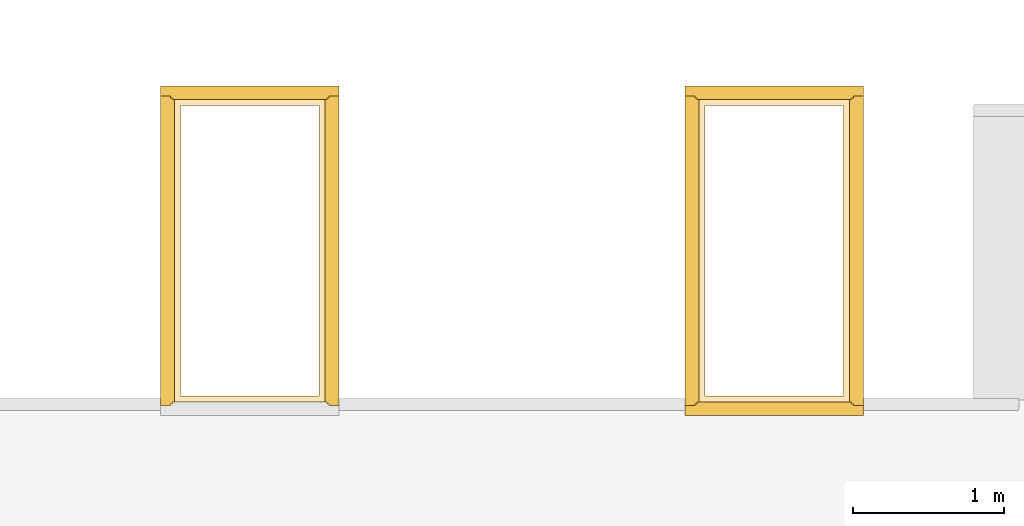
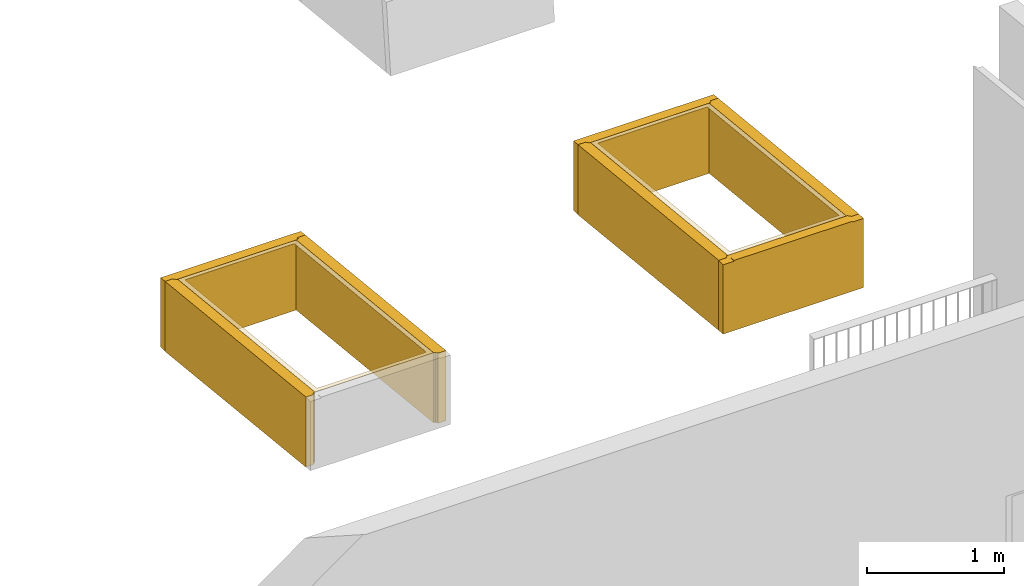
# One storey, part 16 of 23: 9 coverings, 2 openings.
"""IFC2X3 building model written with IfcOpenShell, lengths in millimetres."""

import ifcopenshell
import ifcopenshell.guid

model = None  # the IFC model being written
_history = None  # IfcOwnerHistory: only IFC2X3 demands one
_inside = {}  # id of a spatial element -> (the spatial element, [elements in it])
_under = {}  # id of a project, library or spatial element -> (it, [spatial elements below it])
_declared = {}  # id of a project -> (the project, [libraries it declares])
_typed = {}  # id of a type object -> (the type object, [elements of that type])
_made_of = {}  # id of a material, layer set ... -> (it, [elements and type objects made of it])


def new_model(schema):
    """Start an empty IFC model of exactly this schema.

    Asked for "IFC4X3", IfcOpenShell would pick the latest addendum, in which some entities
    have other attributes; the version numbers below select the first issue.
    IFC2X3 requires an IfcOwnerHistory on every rooted entity: one is made here for all.
    """
    global model, _history
    if schema == "IFC4X3":
        model = ifcopenshell.file(schema_version=(4, 3, 0, 0))
    else:
        model = ifcopenshell.file(schema=schema)
    _inside.clear()
    _under.clear()
    _declared.clear()
    _typed.clear()
    _made_of.clear()
    _history = None
    if model.schema == "IFC2X3":
        org = make("IfcOrganization", Name="unknown")
        user = make(
            "IfcPersonAndOrganization",
            ThePerson=make("IfcPerson", FamilyName="unknown"),
            TheOrganization=org,
        )
        app = make(
            "IfcApplication",
            ApplicationDeveloper=org,
            Version="unknown",
            ApplicationFullName="unknown",
            ApplicationIdentifier="unknown",
        )
        _history = make(
            "IfcOwnerHistory",
            OwningUser=user,
            OwningApplication=app,
            ChangeAction="ADDED",
            CreationDate=0,
        )
    return model


def make(cls, **values):
    """One entity of the class cls with the attributes given. An attribute that is None is left unset."""
    return model.create_entity(
        cls, **{name: value for name, value in values.items() if value is not None}
    )


def entity(cls, *values):
    """Any entity or typed value of the class cls, its attributes in the order of the schema. None: left unset."""
    e = model.create_entity(cls)
    for i, value in enumerate(values):
        if value is not None:
            e[i] = value
    return e


def rooted(cls, **values):
    """An entity with a GlobalId (a new one), such as an element, a storey or a relation."""
    return make(cls, GlobalId=ifcopenshell.guid.new(), OwnerHistory=_history, **values)


def si_unit(unit_type, name, prefix=None):
    """IfcSIUnit, for example si_unit("LENGTHUNIT", "METRE", prefix="MILLI")."""
    return make("IfcSIUnit", UnitType=unit_type, Prefix=prefix, Name=name)


def converted_unit(unit_type, name, factor, base, dimensions=None, offset=None):
    """IfcConversionBasedUnit, such as the inch: factor (a typed value) times the base unit."""
    return make(
        "IfcConversionBasedUnit"
        if offset is None
        else "IfcConversionBasedUnitWithOffset",
        ConversionOffset=offset,
        Dimensions=None
        if dimensions is None
        else entity("IfcDimensionalExponents", *dimensions),
        UnitType=unit_type,
        Name=name,
        ConversionFactor=make(
            "IfcMeasureWithUnit", ValueComponent=factor, UnitComponent=base
        ),
    )


def derived_unit(unit_type, elements):
    """IfcDerivedUnit: a product of units, each with its exponent."""
    return make(
        "IfcDerivedUnit",
        Elements=[
            make("IfcDerivedUnitElement", Unit=unit, Exponent=power)
            for unit, power in elements
        ],
        UnitType=unit_type,
    )


def money_unit(currency):
    """IfcMonetaryUnit."""
    return make("IfcMonetaryUnit", Currency=currency)


def assignment(units):
    """IfcUnitAssignment: the units of a project."""
    return None if units is None else make("IfcUnitAssignment", Units=units)


def point(xyz):
    """IfcCartesianPoint."""
    return None if xyz is None else make("IfcCartesianPoint", Coordinates=xyz)


def direction(xyz):
    """IfcDirection."""
    return None if xyz is None else make("IfcDirection", DirectionRatios=xyz)


def frame(location, z_axis=None, x_axis=None):
    """IfcAxis2Placement3D, a coordinate frame: its origin and axes. An axis left out is left unset."""
    return make(
        "IfcAxis2Placement3D",
        Location=point(location),
        Axis=direction(z_axis),
        RefDirection=direction(x_axis),
    )


def origin_with_axes():
    """The frame at (0, 0, 0) with the z axis (0, 0, 1) and the x axis (1, 0, 0) written out."""
    return frame((0.0, 0.0, 0.0), z_axis=(0.0, 0.0, 1.0), x_axis=(1.0, 0.0, 0.0))


def place(relative_to, where):
    """IfcLocalPlacement: puts the frame where relative to a parent placement (None: the world)."""
    return make(
        "IfcLocalPlacement", PlacementRelTo=relative_to, RelativePlacement=where
    )


def context(
    kind, dimensions, precision=None, world=None, true_north=None, identifier=None
):
    """IfcGeometricRepresentationContext, for example the 3D "Model" context."""
    return make(
        "IfcGeometricRepresentationContext",
        ContextIdentifier=identifier,
        ContextType=kind,
        CoordinateSpaceDimension=dimensions,
        Precision=precision,
        WorldCoordinateSystem=world,
        TrueNorth=true_north,
    )


def subcontext(parent, identifier, kind, view, scale=None):
    """IfcGeometricRepresentationSubContext, for example "Body" below "Model"."""
    return make(
        "IfcGeometricRepresentationSubContext",
        ContextIdentifier=identifier,
        ContextType=kind,
        ParentContext=parent,
        TargetScale=scale,
        TargetView=view,
    )


def project(units=None, contexts=None):
    """IfcProject with its units and contexts."""
    return rooted(
        "IfcProject",
        Name="project",
        RepresentationContexts=contexts,
        UnitsInContext=assignment(units),
    )


def spatial(cls, under=None, at=None, **own):
    """A site, building, storey or space (cls), placed at a placement, below another one or the project."""
    s = rooted(cls, ObjectPlacement=at, **own)
    if under is not None:
        _under.setdefault(under.id(), (under, []))[1].append(s)
    return s


def faces_of(points, faces, orient=None, outer=None):
    """IfcFace entities. A face is a list of loops; a loop is a list of indices into points, from 0.

    orient and outer hold one flag for each loop. By default every Orientation is true, the
    first loop of a face is its IfcFaceOuterBound and the others are IfcFaceBound.
    """
    made = []
    for i, loops in enumerate(faces):
        bounds = []
        for j, loop in enumerate(loops):
            is_outer = j == 0 if outer is None else outer[i][j]
            bounds.append(
                make(
                    "IfcFaceOuterBound" if is_outer else "IfcFaceBound",
                    Bound=make("IfcPolyLoop", Polygon=[points[k] for k in loop]),
                    Orientation=True if orient is None else orient[i][j],
                )
            )
        made.append(make("IfcFace", Bounds=bounds))
    return made


def faceted_brep(points, faces, orient=None, outer=None, voids=None):
    """IfcFacetedBrep: a solid bounded by flat faces; with voids (closed shells), ...WithVoids."""
    shared = [point(p) for p in points]
    hull = make("IfcClosedShell", CfsFaces=faces_of(shared, faces, orient, outer))
    if voids is None:
        return make("IfcFacetedBrep", Outer=hull)
    return make(
        "IfcFacetedBrepWithVoids",
        Outer=hull,
        Voids=[
            make(cls, CfsFaces=faces_of(shared, fs, o, b)) for cls, fs, o, b in voids
        ],
    )


def shape(context_of_items, identifier, shape_type, items):
    """IfcShapeRepresentation: the items that make up one representation, for example the "Body"."""
    return make(
        "IfcShapeRepresentation",
        ContextOfItems=context_of_items,
        RepresentationIdentifier=identifier,
        RepresentationType=shape_type,
        Items=items,
    )


def material(Name=None, Category=None):
    """IfcMaterial."""
    return make("IfcMaterial", Name=Name, Category=Category)


def material_list(materials):
    """IfcMaterialList."""
    return make("IfcMaterialList", Materials=materials)


def made_of(thing, what):
    """Note that an element or type object is made of a material, layer set ...; save() writes the relation."""
    if what is not None:
        _made_of.setdefault(what.id(), (what, []))[1].append(thing)
    return thing


def type_object(cls, material=None, **own):
    """A type object (cls), such as IfcWallType, which elements share."""
    return made_of(rooted(cls, **own), material)


def element(
    cls,
    number,
    at=None,
    inside=None,
    cuts=None,
    type_object=None,
    material=None,
    context=None,
    identifier="Body",
    shape_type=None,
    held_by="IfcProductDefinitionShape",
    body=None,
    shapes=None,
    **own,
):
    """One element of the class cls, such as IfcWall. Its Tag is "e" and its number.

    at: its placement. inside: the storey or other place that contains it. cuts: it is an
    opening in that element (IfcRelVoidsElement). A single representation is given by context,
    identifier, shape_type and body (its items); several are given by shapes. held_by: the class
    of the entity that holds the representations. save() writes the other relations.
    """
    e = rooted(cls, Tag="e%d" % number, ObjectPlacement=at, **own)
    if body is not None:
        shapes = [shape(context, identifier, shape_type, body)]
    if shapes is not None:
        e.Representation = make(held_by, Representations=shapes)
    if inside is not None:
        _inside.setdefault(inside.id(), (inside, []))[1].append(e)
    if cuts is not None:
        rooted(
            "IfcRelVoidsElement", RelatingBuildingElement=cuts, RelatedOpeningElement=e
        )
    if type_object is not None:
        _typed.setdefault(type_object.id(), (type_object, []))[1].append(e)
    return made_of(e, material)


def aggregate(whole, parts):
    """IfcRelAggregates: a whole, such as a stair, and the parts it consists of."""
    return rooted("IfcRelAggregates", RelatingObject=whole, RelatedObjects=parts)


def save(model, path):
    """Write the relations noted so far, then the file.

    IfcRelAggregates (storeys below a building ...), IfcRelContainedInSpatialStructure (elements
    in a storey), IfcRelDefinesByType, IfcRelAssociatesMaterial and IfcRelDeclares: one each for
    every whole, place, type object, material and project.
    """
    for whole, parts in _under.values():
        aggregate(whole, parts)
    for where, things in _inside.values():
        rooted(
            "IfcRelContainedInSpatialStructure",
            RelatedElements=things,
            RelatingStructure=where,
        )
    for kind, things in _typed.values():
        rooted("IfcRelDefinesByType", RelatedObjects=things, RelatingType=kind)
    for what, things in _made_of.values():
        rooted("IfcRelAssociatesMaterial", RelatedObjects=things, RelatingMaterial=what)
    for by, libraries in _declared.values():
        rooted("IfcRelDeclares", RelatingContext=by, RelatedDefinitions=libraries)
    model.write(path)


model = new_model("IFC2X3")

# Units and contexts
model_context = context("Model", 3, precision=0.01, world=origin_with_axes(), true_north=direction((0.0, 1.0)))
body_context = subcontext(model_context, "Body", "Model", "MODEL_VIEW")
ifc_project = project(units=[si_unit("LENGTHUNIT", "METRE", prefix="MILLI"), si_unit("AREAUNIT", "SQUARE_METRE"), si_unit("VOLUMEUNIT", "CUBIC_METRE"), converted_unit("PLANEANGLEUNIT", "DEGREE", entity("IfcPlaneAngleMeasure", 0.0174532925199), si_unit("PLANEANGLEUNIT", "RADIAN"), dimensions=[0, 0, 0, 0, 0, 0, 0]), si_unit("SOLIDANGLEUNIT", "STERADIAN"), money_unit("EUR"), converted_unit("TIMEUNIT", "Year", entity("IfcTimeMeasure", 31556926.0), si_unit("TIMEUNIT", "SECOND"), dimensions=[0, 0, 1, 0, 0, 0, 0]), si_unit("MASSUNIT", "GRAM", prefix="KILO"), si_unit("THERMODYNAMICTEMPERATUREUNIT", "DEGREE_CELSIUS"), si_unit("LUMINOUSINTENSITYUNIT", "LUMEN"), si_unit("ENERGYUNIT", "JOULE", prefix="MEGA"), derived_unit("THERMALCONDUCTANCEUNIT", [(si_unit("POWERUNIT", "WATT"), 1), (si_unit("LENGTHUNIT", "METRE"), -1), (si_unit("THERMODYNAMICTEMPERATUREUNIT", "KELVIN"), -1)]), derived_unit("SPECIFICHEATCAPACITYUNIT", [(si_unit("ENERGYUNIT", "JOULE"), 1), (si_unit("MASSUNIT", "GRAM", prefix="KILO"), -1), (si_unit("THERMODYNAMICTEMPERATUREUNIT", "KELVIN"), -1)]), derived_unit("MASSDENSITYUNIT", [(si_unit("MASSUNIT", "GRAM", prefix="KILO"), 1), (si_unit("VOLUMEUNIT", "CUBIC_METRE"), -1)])], contexts=[model_context])

# Site, building, storey
site_placement = place(None, origin_with_axes())
site = spatial("IfcSite", under=ifc_project, at=site_placement, Name="L.Koidula tn 11b", CompositionType="ELEMENT")
building_placement = place(site_placement, origin_with_axes())
building = spatial("IfcBuilding", under=site, at=building_placement, Name="Rakvere Riigigümnaasium", CompositionType="ELEMENT")
storey_placement = place(building_placement, frame((0.0, 0.0, 7440.0), z_axis=(0.0, 0.0, 1.0), x_axis=(1.0, 0.0, 0.0)))
storey = spatial("IfcBuildingStorey", under=building, at=storey_placement, Name="3.korrus +7,44", CompositionType="ELEMENT", Elevation=7440.0)

# Coverings
ifc_material_1 = material(Name="SKR-02_Kipsplaat")
ifc_material_2 = material(Name="mineraalvill+karkass")
ifc_material_list_1 = material_list([ifc_material_1, ifc_material_1, ifc_material_2])
covering_type_1 = type_object("IfcCoveringType", Name="SA-2xkips 91", PredefinedType="NOTDEFINED")
covering_1_placement = place(storey_placement, frame((69498.0778352, 17093.5272912, 2893.27320769), z_axis=(0.0, 0.0, 1.0), x_axis=(-1.0, 0.0, 0.0)))
element("IfcCovering", 1, at=covering_1_placement, inside=storey, type_object=covering_type_1, material=ifc_material_list_1, Name="Ava-pinnakate", PredefinedType="NOTDEFINED", context=body_context, shape_type="Brep", body=[
    faceted_brep([(1012.49818739, -12.5, 633.06957111), (-12.5017888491, -12.5, 633.06957111), (-12.5017888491, -12.5, 9.56941715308), (0.0, -12.5, 9.56941706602), (0.0, -12.5, 8.19459877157), (999.999992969, -12.5, 8.19459877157), (999.999992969, -12.5, 9.56941706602), (1012.49818739, -12.5, 9.56941715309), (-12.5002567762, -1.79351733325, 634.194867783), (1012.49973401, -1.79351733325, 634.194867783), (-12.500000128, 0.0, 634.194867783), (-12.500000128, 0.0, 9.56941715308), (0.0, 0.0, 9.56941706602), (0.0, 0.0, 9.50840171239), (999.999992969, 0.0, 9.50840171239), (999.999992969, 0.0, 9.56941706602), (1012.4999931, 0.0, 9.56941715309), (1012.4999931, 0.0, 634.194867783)], [[[0, 1, 2, 3, 4, 5, 6, 7]], [[8, 1, 0, 9]], [[1, 8, 10, 11, 2]], [[12, 3, 2, 11]], [[12, 13, 4, 3]], [[14, 5, 4, 13]], [[6, 5, 14, 15]], [[6, 15, 16, 7]], [[9, 0, 7, 16, 17]], [[8, 9, 17, 10]], [[15, 14, 13, 12, 11, 10, 17, 16]]]),
    faceted_brep([(1024.9963818, -25.0, 631.75576817), (-25.0035776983, -25.0, 631.75576817), (-25.0035776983, -25.0, 9.56941715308), (0.0, -25.0, 9.56941706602), (0.0, -25.0, 6.88079583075), (999.999992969, -25.0, 6.88079583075), (999.999992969, -25.0, 9.56941706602), (1024.9963818, -25.0, 9.56941715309), (-25.0017889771, -12.5, 633.06957111), (1024.99818752, -12.5, 633.06957111), (-25.0017889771, -12.5, 9.56941715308), (0.0, -12.5, 9.56941706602), (0.0, -12.5, 8.19459877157), (999.999992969, -12.5, 8.19459877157), (999.999992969, -12.5, 9.56941706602), (1024.99818752, -12.5, 9.56941715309)], [[[0, 1, 2, 3, 4, 5, 6, 7]], [[8, 1, 0, 9]], [[1, 8, 10, 2]], [[11, 3, 2, 10]], [[11, 12, 4, 3]], [[13, 5, 4, 12]], [[6, 5, 13, 14]], [[6, 14, 15, 7]], [[9, 0, 7, 15]], [[8, 9, 15, 14, 13, 12, 11, 10]]]),
    faceted_brep([(1090.98684832, -91.0, 624.818888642), (-91.0130193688, -91.0, 624.818888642), (-91.0130193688, -91.0, 9.56941715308), (0.0, -91.0, 9.56941706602), (0.0, -91.0, 0.0), (999.999992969, -91.0, 0.0), (999.999992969, -91.0, 9.56941706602), (1090.98684832, -91.0, 9.56941715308), (-91.003574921, -25.0, 631.75576817), (1090.99638249, -25.0, 631.75576817), (-91.003574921, -25.0, 9.56941715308), (0.0, -25.0, 9.56941706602), (0.0, -25.0, 6.88079583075), (0.0, -90.4663992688, 0.0), (999.999992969, -90.4663992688, 0.0), (999.999992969, -25.0, 6.88079583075), (999.999992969, -25.0, 9.56941706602), (1090.99638249, -25.0, 9.56941715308)], [[[0, 1, 2, 3, 4, 5, 6, 7]], [[8, 1, 0, 9]], [[1, 8, 10, 2]], [[11, 3, 2, 10]], [[11, 12, 13, 4, 3]], [[4, 13, 14, 5]], [[5, 14, 15, 16, 6]], [[6, 16, 17, 7]], [[9, 0, 7, 17]], [[8, 9, 17, 16, 15, 12, 11, 10]], [[15, 14, 13, 12]]]),
])
covering_2_placement = place(storey_placement, frame((68498.0778422, 17093.5272912, 2902.84262484), z_axis=(0.0, 0.0, 1.0), x_axis=(-0.000144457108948, -0.999999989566, 0.0)))
element("IfcCovering", 2, at=covering_2_placement, inside=storey, type_object=covering_type_1, material=ifc_material_list_1, Name="Ava-pinnakate", PredefinedType="NOTDEFINED", context=body_context, shape_type="Brep", body=[
    faceted_brep([(0.00180411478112, -12.5, 624.81395673), (0.0, -1.29873001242e-07, 624.813956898), (0.0, -1.29873001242e-07, 624.62545063), (0.00180571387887, -12.5, 624.62545063), (2004.97699946, -1.50066625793e-08, 835.545528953), (2004.97880517, -12.5000000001, 835.545528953), (2004.97676336, -1.20967058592e-06, 210.670531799), (0.580523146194, -1.0255973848e-07, 0.0), (0.0, -1.02247099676e-07, 0.0), (0.00180571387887, -12.5, 0.0), (0.582328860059, -12.5, 0.0), (2004.97856908, -12.5000000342, 210.670531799)], [[[0, 1, 2, 3]], [[4, 1, 0, 5]], [[1, 4, 6, 7, 8, 2]], [[3, 2, 8, 9]], [[5, 0, 3, 9, 10, 11]], [[4, 5, 11, 6]], [[11, 10, 7, 6]], [[8, 7, 10, 9]]]),
    faceted_brep([(0.0, -25.0, 624.813577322), (0.0, -12.5, 624.81376711), (0.0, -12.5, 624.62545063), (0.0, -25.0, 624.62545063), (2017.47880604, -12.5, 836.859331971), (2017.48061175, -25.0, 836.859331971), (-12.4981944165, -12.5, 623.500153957), (-1.79171163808, -12.5, 624.62545063), (2017.47880604, -12.5, 211.984359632), (0.582328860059, -12.5, 0.0), (-12.4981944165, -12.5, 0.0), (-1.7899059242, -25.0, 624.62545063), (-12.4963887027, -25.0, 623.500153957), (-12.4963887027, -25.0, 0.0), (0.584134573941, -25.0, 0.0), (2017.48061175, -25.0, 211.984359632)], [[[0, 1, 2, 3]], [[4, 1, 0, 5]], [[6, 7, 2, 1, 4, 8, 9, 10]], [[7, 11, 3, 2]], [[11, 12, 13, 14, 15, 5, 0, 3]], [[4, 5, 15, 8]], [[7, 6, 12, 11]], [[15, 14, 9, 8]], [[10, 9, 14, 13]], [[12, 6, 10, 13]]]),
    faceted_brep([(0.0, -91.0, 624.81257524), (0.0, -25.0, 624.813577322), (0.0, -25.0, 624.62545063), (0.0, -91.0, 624.62545063), (2023.46087621, -25.0, 837.487883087), (2023.47041038, -91.0, 837.487883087), (-24.9963888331, -25.0, 622.186351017), (-1.7899059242, -25.0, 624.62545063), (2029.98061188, -25.0, 837.487883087), (2029.98061188, -25.0, 213.298162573), (0.584134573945, -25.0, 0.0), (-24.9963888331, -25.0, 0.0), (-1.78037175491, -91.0, 624.62545063), (-24.9868546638, -91.0, 622.186351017), (-24.9868546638, -91.0, 0.0), (0.593668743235, -91.0, 0.0), (2029.99014605, -91.0, 213.298162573), (2029.99014605, -91.0, 837.487883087)], [[[0, 1, 2, 3]], [[4, 1, 0, 5]], [[6, 7, 2, 1, 4, 8, 9, 10, 11]], [[7, 12, 3, 2]], [[12, 13, 14, 15, 16, 17, 5, 0, 3]], [[4, 5, 17, 8]], [[7, 6, 13, 12]], [[17, 16, 9, 8]], [[16, 15, 10, 9]], [[11, 10, 15, 14]], [[13, 6, 11, 14]]]),
])
ifc_material_list_2 = material_list([ifc_material_2, ifc_material_1, ifc_material_1])
covering_3_placement = place(storey_placement, frame((69498.0778352, 17093.5272912, 2902.84262484), z_axis=(0.0, 0.0, 1.0), x_axis=(-0.000143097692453, -0.999999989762, 0.0)))
element("IfcCovering", 3, at=covering_3_placement, inside=storey, type_object=covering_type_1, material=ifc_material_list_2, Name="Ava-pinnakate", PredefinedType="NOTDEFINED", context=body_context, shape_type="Brep", body=[
    faceted_brep([(0.0, 25.0, 624.814332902), (0.0, 90.9999998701, 624.815325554), (0.0, 90.9999998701, 624.62545063), (0.0, 25.0, 624.62545063), (2023.4442425, 91.0000021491, 837.487883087), (2023.45368695, 25.0, 837.487883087), (-25.0130221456, 90.9999965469, 622.186351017), (-1.80653924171, 90.9999996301, 624.62545063), (2029.96397817, 91.0000021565, 837.487883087), (2029.96397817, 91.0000021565, 213.298162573), (0.567501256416, 90.9999965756, 0.0), (-25.0130221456, 90.9999965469, 0.0), (-1.79709479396, 25.0, 624.62545063), (-25.0035776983, 25.0, 622.186351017), (-25.0035776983, 25.0, 0.0), (0.576945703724, 25.0, 0.0), (2029.97342262, 25.0, 213.298162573), (2029.97342262, 25.0, 837.487883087)], [[[0, 1, 2, 3]], [[4, 1, 0, 5]], [[6, 7, 2, 1, 4, 8, 9, 10, 11]], [[7, 12, 3, 2]], [[12, 13, 14, 15, 16, 17, 5, 0, 3]], [[4, 5, 17, 8]], [[7, 6, 13, 12]], [[17, 16, 9, 8]], [[16, 15, 10, 9]], [[11, 10, 15, 14]], [[13, 6, 11, 14]]]),
    faceted_brep([(0.0, 12.5, 624.8141449), (0.0, 25.0, 624.814332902), (0.0, 25.0, 624.62545063), (0.0, 12.5, 624.62545063), (2017.47342249, 25.0, 836.859331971), (2017.47521121, 12.5, 836.859331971), (-12.5035775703, 25.0, 623.500153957), (-1.79709479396, 25.0, 624.62545063), (2017.47342249, 25.0, 211.984359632), (0.57694570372, 25.0, 0.0), (-12.5035775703, 25.0, 0.0), (-1.79530607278, 12.5, 624.62545063), (-12.5017888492, 12.5, 623.500153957), (-12.5017888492, 12.5, 0.0), (0.578734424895, 12.5, 0.0), (2017.47521121, 12.5, 211.984359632)], [[[0, 1, 2, 3]], [[4, 1, 0, 5]], [[6, 7, 2, 1, 4, 8, 9, 10]], [[7, 11, 3, 2]], [[11, 12, 13, 14, 15, 5, 0, 3]], [[4, 5, 15, 8]], [[7, 6, 12, 11]], [[15, 14, 9, 8]], [[10, 9, 14, 13]], [[12, 6, 10, 13]]]),
    faceted_brep([(0.0, 0.0, 624.813956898), (0.0, 12.5, 624.8141449), (0.0, 12.5, 624.62545063), (0.0, 0.0, 624.62545063), (2004.97521583, 12.4999999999, 835.545529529), (2004.97699907, -1.13686837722e-10, 835.545528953), (2004.97674343, 12.4999999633, 210.670717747), (0.00455419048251, 12.5000009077, -0.0603487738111), (0.00634291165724, 9.07661501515e-07, -0.0603487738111), (2004.97676297, -3.38928884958e-08, 210.670531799)], [[[0, 1, 2, 3]], [[4, 1, 0, 5]], [[1, 4, 6, 7, 2]], [[2, 7, 8, 3]], [[5, 0, 3, 8, 9]], [[4, 5, 9, 6]], [[9, 8, 7, 6]]]),
])
covering_4_placement = place(storey_placement, frame((72978.1093442, 17093.5272912, 2893.27320769), z_axis=(0.0, 0.0, 1.0), x_axis=(-1.0, 0.0, 0.0)))
element("IfcCovering", 4, at=covering_4_placement, inside=storey, type_object=covering_type_1, material=ifc_material_list_1, Name="Ava-pinnakate", PredefinedType="NOTDEFINED", context=body_context, shape_type="Brep", body=[
    faceted_brep([(1012.49818739, -12.5, 633.06957111), (-12.5017888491, -12.5, 633.06957111), (-12.5017888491, -12.5, 9.56941715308), (0.0, -12.5, 9.56941706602), (0.0, -12.5, 8.19459877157), (999.999992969, -12.5, 8.19459877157), (999.999992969, -12.5, 9.56941706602), (1012.49818739, -12.5000000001, 9.56941715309), (-12.5002567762, -1.79351733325, 634.194867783), (1012.49973401, -1.79351733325, 634.194867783), (-12.500000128, 0.0, 634.194867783), (-12.500000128, 0.0, 9.56941715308), (0.0, 0.0, 9.56941706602), (0.0, 0.0, 9.50840171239), (999.999992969, 0.0, 9.50840171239), (999.999992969, 0.0, 9.56941706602), (1012.4999931, 0.0, 9.56941715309), (1012.4999931, 0.0, 634.194867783)], [[[0, 1, 2, 3, 4, 5, 6, 7]], [[8, 1, 0, 9]], [[1, 8, 10, 11, 2]], [[12, 3, 2, 11]], [[12, 13, 4, 3]], [[14, 5, 4, 13]], [[6, 5, 14, 15]], [[6, 15, 16, 7]], [[9, 0, 7, 16, 17]], [[8, 9, 17, 10]], [[15, 14, 13, 12, 11, 10, 17, 16]]]),
    faceted_brep([(1024.99638137, -25.0000000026, 631.755768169), (-25.0035771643, -25.0000000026, 631.755768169), (-25.0035777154, -25.0000006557, 9.56941715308), (0.0, -25.0000006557, 9.56941706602), (0.0, -25.0000006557, 6.88079576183), (999.999992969, -25.0000006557, 6.88079576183), (999.999992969, -25.0000006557, 9.56941706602), (1024.99638176, -25.0000006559, 9.56941715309), (-25.0017884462, -12.5, 633.06957111), (1024.99818709, -12.5, 633.06957111), (-25.0017889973, -12.5000000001, 9.56941715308), (0.0, -12.5, 9.56941706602), (0.0, -12.5, 8.19459877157), (999.999992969, -12.5, 8.19459877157), (999.999992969, -12.5, 9.56941706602), (1024.99818746, -12.5, 9.56941715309)], [[[0, 1, 2, 3, 4, 5, 6, 7]], [[8, 1, 0, 9]], [[1, 8, 10, 2]], [[11, 3, 2, 10]], [[11, 12, 4, 3]], [[13, 5, 4, 12]], [[6, 5, 13, 14]], [[6, 14, 15, 7]], [[9, 0, 7, 15]], [[8, 9, 15, 14, 13, 12, 11, 10]]]),
    faceted_brep([(1090.98684832, -91.0, 624.818888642), (-91.0130193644, -91.0, 624.818888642), (-91.0130193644, -91.0, 9.56941706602), (0.0, -91.0, 9.56941706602), (0.0, -91.0, 0.0), (999.999992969, -91.0, 0.0), (999.999992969, -91.0, 9.56941706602), (1090.98684832, -91.0, 9.56941706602), (-91.0035749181, -25.0000000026, 631.755768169), (1090.99638249, -25.0000000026, 631.755768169), (-91.0035749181, -25.0000006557, 9.56941706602), (0.0, -25.0000006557, 9.56941706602), (0.0, -25.0000006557, 6.88079576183), (0.0, -90.4663992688, 0.0), (999.999992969, -90.4663992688, 0.0), (999.999992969, -25.0000006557, 6.88079576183), (999.999992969, -25.0000006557, 9.56941706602), (1090.99638249, -25.0000006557, 9.56941706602)], [[[0, 1, 2, 3, 4, 5, 6, 7]], [[8, 1, 0, 9]], [[1, 8, 10, 2]], [[10, 11, 3, 2]], [[11, 12, 13, 4, 3]], [[4, 13, 14, 5]], [[5, 14, 15, 16, 6]], [[16, 17, 7, 6]], [[9, 0, 7, 17]], [[8, 9, 17, 16, 15, 12, 11, 10]], [[15, 14, 13, 12]]]),
])
covering_5_placement = place(storey_placement, frame((71977.819718, 15088.5503119, 3113.51090333), z_axis=(0.0, 0.0, 1.0), x_axis=(1.0, 0.0, 0.0)))
element("IfcCovering", 5, at=covering_5_placement, inside=storey, type_object=covering_type_1, material=ifc_material_list_1, Name="Ava-pinnakate", PredefinedType="NOTDEFINED", context=body_context, shape_type="Brep", body=[
    faceted_brep([(-12.5000001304, 7.33887617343e-07, 624.877250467), (1012.5027187, 7.33887617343e-07, 624.877250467), (1012.5027187, 0.000236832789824, 0.00225331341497), (-12.5000001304, 0.000236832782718, 0.00225331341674), (1012.50092998, -12.5, 626.191053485), (-12.5018058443, -12.5, 626.191053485), (1012.50092998, -12.5, 1.31608114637), (-12.5018058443, -12.5, 1.31608114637)], [[[0, 1, 2, 3]], [[4, 1, 0, 5]], [[1, 4, 6, 2]], [[7, 3, 2, 6]], [[5, 0, 3, 7]], [[4, 5, 7, 6]]]),
    faceted_brep([(-25.0018059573, -12.5, 626.191053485), (1025.00093008, -12.4999999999, 626.191053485), (1025.00093062, -12.5, 1.31608114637), (-25.0018045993, -12.5, 1.31608114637), (1025.00007432, -18.4802643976, 626.819604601), (-25.0026698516, -18.4802643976, 626.819604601), (0.0, -18.4802643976, 626.819604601), (0.0, -25.0000006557, 627.504856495), (1000.00271857, -25.0000006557, 627.504856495), (1000.00271857, -18.4802643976, 626.819604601), (1024.99914136, -25.0000006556, 626.819604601), (1024.9991419, -25.0000000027, 2.62988408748), (-25.0036103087, -25.0000000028, 2.62988408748), (-25.0036116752, -25.0000006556, 626.819604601), (0.0, -25.0000006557, 626.819604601), (1000.00271857, -25.0000006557, 626.819604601)], [[[0, 1, 2, 3]], [[4, 1, 0, 5, 6, 7, 8, 9]], [[1, 4, 10, 11, 2]], [[12, 3, 2, 11]], [[5, 0, 3, 12, 13]], [[6, 5, 13, 14]], [[7, 6, 14]], [[8, 7, 14, 13, 12, 11, 10, 15]], [[9, 8, 15]], [[4, 9, 15, 10]]]),
    faceted_brep([(0.0, -25.0000006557, 627.504856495), (1000.00271857, -25.0000006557, 627.504856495), (1000.00271857, -25.0000006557, 626.819604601), (1090.99914421, -25.0000006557, 626.819604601), (1090.99914421, -25.0000000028, 2.62988408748), (-91.0036123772, -25.0000000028, 2.62988408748), (-91.0036123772, -25.0000006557, 626.819604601), (0.0, -25.0000006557, 626.819604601), (1000.00271857, -86.6846790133, 633.988177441), (0.0, -86.6846790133, 633.988177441), (1000.00271857, -91.0, 633.988177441), (1000.00271857, -91.0, 626.819604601), (1090.98969976, -91.0, 626.819604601), (1090.98969976, -91.0, 9.56676361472), (-91.0131465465, -91.0, 9.56676361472), (-91.0131465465, -91.0, 626.819604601), (0.0, -91.0, 626.819604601), (0.0, -91.0, 633.988177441)], [[[0, 1, 2, 3, 4, 5, 6, 7]], [[8, 1, 0, 9]], [[1, 8, 10, 11, 2]], [[2, 11, 12, 3]], [[12, 13, 4, 3]], [[14, 5, 4, 13]], [[6, 5, 14, 15]], [[7, 6, 15, 16]], [[9, 0, 7, 16, 17]], [[8, 9, 17, 10]], [[15, 14, 13, 12, 11, 10, 17, 16]]]),
])
covering_6_placement = place(storey_placement, frame((71978.1093512, 17093.5272912, 2902.84262484), z_axis=(0.0, 0.0, 1.0), x_axis=(-0.000144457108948, -0.999999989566, 0.0)))
element("IfcCovering", 6, at=covering_6_placement, inside=storey, type_object=covering_type_1, material=ifc_material_list_1, Name="Ava-pinnakate", PredefinedType="NOTDEFINED", context=body_context, shape_type="Brep", body=[
    faceted_brep([(0.00180411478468, -12.5, 624.81395673), (0.0, -1.29873001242e-07, 624.813956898), (0.0, -1.29873001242e-07, 624.62545063), (0.00180571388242, -12.5, 624.62545063), (2004.97699946, -9.36495325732e-09, 835.545528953), (2004.97880517, -12.5000000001, 835.545528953), (2004.97676336, -1.20967058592e-06, 210.670531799), (0.580523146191, -5.13580289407e-08, 0.0), (0.0, -5.10311792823e-08, 0.0), (0.00180571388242, -12.5, 0.0), (0.582328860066, -12.5, 0.0), (2004.97856908, -12.5000000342, 210.670531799)], [[[0, 1, 2, 3]], [[4, 1, 0, 5]], [[1, 4, 6, 7, 8, 2]], [[3, 2, 8, 9]], [[5, 0, 3, 9, 10, 11]], [[4, 5, 11, 6]], [[11, 10, 7, 6]], [[8, 7, 10, 9]]]),
    faceted_brep([(0.0, -24.9999995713, 624.813577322), (0.0, -12.5, 624.81376711), (0.0, -12.5, 624.62545063), (0.0, -24.9999995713, 624.62545063), (2017.47880604, -12.5, 836.859331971), (2017.48061175, -24.9999999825, 836.859331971), (-12.4981944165, -12.4999999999, 623.500153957), (-1.79171163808, -12.5, 624.62545063), (2017.47880604, -12.5, 211.984359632), (0.582328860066, -12.5, 0.0), (-12.4981944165, -12.5, 0.0), (-1.78990592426, -24.9999995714, 624.62545063), (-12.4963887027, -24.999999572, 623.500153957), (-12.4963887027, -24.9999999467, 0.0), (0.584134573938, -24.9999999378, 0.0), (2017.48061175, -24.9999985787, 211.984359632)], [[[0, 1, 2, 3]], [[4, 1, 0, 5]], [[6, 7, 2, 1, 4, 8, 9, 10]], [[7, 11, 3, 2]], [[11, 12, 13, 14, 15, 5, 0, 3]], [[4, 5, 15, 8]], [[7, 6, 12, 11]], [[15, 14, 9, 8]], [[10, 9, 14, 13]], [[12, 6, 10, 13]]]),
    faceted_brep([(0.0, -91.0, 624.81257524), (0.0, -24.9999995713, 624.813577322), (0.0, -24.9999995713, 624.62545063), (0.0, -91.0, 624.62545063), (2023.46087621, -24.9999999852, 837.487883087), (2023.47041038, -90.9999999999, 837.487883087), (-24.9963888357, -24.9999995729, 622.186351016), (-1.78990592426, -24.9999995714, 624.62545063), (2029.98061254, -24.9999999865, 837.487883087), (2029.98061189, -24.9999985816, 213.298162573), (0.584134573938, -24.9999999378, 0.0), (-24.9963894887, -24.9999999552, 0.0), (-1.78037175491, -91.0, 624.62545063), (-24.9868546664, -91.0, 622.186351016), (-24.9868553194, -91.0000000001, 0.0), (0.593668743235, -91.0000000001, 0.0), (2029.99014606, -91.0, 213.298162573), (2029.99014671, -90.9999999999, 837.487883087)], [[[0, 1, 2, 3]], [[4, 1, 0, 5]], [[6, 7, 2, 1, 4, 8, 9, 10, 11]], [[7, 12, 3, 2]], [[12, 13, 14, 15, 16, 17, 5, 0, 3]], [[4, 5, 17, 8]], [[7, 6, 13, 12]], [[17, 16, 9, 8]], [[16, 15, 10, 9]], [[11, 10, 15, 14]], [[13, 6, 11, 14]]]),
])
covering_7_placement = place(storey_placement, frame((72978.1093442, 17093.5272912, 2902.84262484), z_axis=(0.0, 0.0, 1.0), x_axis=(-0.000143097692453, -0.999999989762, 0.0)))
element("IfcCovering", 7, at=covering_7_placement, inside=storey, type_object=covering_type_1, material=ifc_material_list_2, Name="Ava-pinnakate", PredefinedType="NOTDEFINED", context=body_context, shape_type="Brep", body=[
    faceted_brep([(0.0, 24.9999994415, 624.814332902), (0.0, 90.9999998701, 624.815325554), (0.0, 90.9999998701, 624.62545063), (0.0, 24.9999994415, 624.62545063), (2023.4442425, 91.0000021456, 837.487883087), (2023.45368695, 24.9999999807, 837.487883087), (-25.0130221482, 90.9999965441, 622.186351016), (-1.8065392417, 90.9999996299, 624.62545063), (2029.96397882, 91.000002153, 837.487883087), (2029.96397817, 91.0000021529, 213.298162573), (0.567501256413, 90.9999965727, 0.0), (-25.0130228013, 90.999996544, 0.0), (-1.79709479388, 24.9999994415, 624.62545063), (-25.0035777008, 24.9999994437, 622.186351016), (-25.003578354, 25.000000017, 0.0), (0.576945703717, 25.0000000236, 0.0), (2029.97342262, 25.0000005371, 213.298162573), (2029.97342327, 24.9999999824, 837.487883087)], [[[0, 1, 2, 3]], [[4, 1, 0, 5]], [[6, 7, 2, 1, 4, 8, 9, 10, 11]], [[7, 12, 3, 2]], [[12, 13, 14, 15, 16, 17, 5, 0, 3]], [[4, 5, 17, 8]], [[7, 6, 13, 12]], [[17, 16, 9, 8]], [[16, 15, 10, 9]], [[11, 10, 15, 14]], [[13, 6, 11, 14]]]),
    faceted_brep([(0.0, 12.5, 624.8141449), (0.0, 24.9999994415, 624.814332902), (0.0, 24.9999994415, 624.62545063), (0.0, 12.5, 624.62545063), (2017.47342249, 24.9999999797, 836.859331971), (2017.47521121, 12.5, 836.859331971), (-12.5035775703, 24.9999994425, 623.500153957), (-1.79709479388, 24.9999994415, 624.62545063), (2017.47342249, 25.0000005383, 211.984359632), (0.576945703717, 25.0000000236, 0.0), (-12.5035775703, 25.0000000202, 0.0), (-1.79530607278, 12.5, 624.62545063), (-12.5017888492, 12.5000000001, 623.500153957), (-12.5017888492, 12.5, 0.0), (0.578734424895, 12.5, 0.0), (2017.47521121, 12.5, 211.984359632)], [[[0, 1, 2, 3]], [[4, 1, 0, 5]], [[6, 7, 2, 1, 4, 8, 9, 10]], [[7, 11, 3, 2]], [[11, 12, 13, 14, 15, 5, 0, 3]], [[4, 5, 15, 8]], [[7, 6, 12, 11]], [[15, 14, 9, 8]], [[10, 9, 14, 13]], [[12, 6, 10, 13]]]),
    faceted_brep([(0.0, 0.0, 624.813956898), (0.0, 12.5, 624.8141449), (0.0, 12.5, 624.62545063), (0.0, 0.0, 624.62545063), (2004.97521583, 12.4999999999, 835.545529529), (2004.97699907, -1.13686837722e-10, 835.545528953), (2004.97674343, 12.4999999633, 210.670717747), (0.00455419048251, 12.5000009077, -0.0603487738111), (0.00634291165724, 9.07661501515e-07, -0.0603487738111), (2004.97676297, -3.38928884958e-08, 210.670531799)], [[[0, 1, 2, 3]], [[4, 1, 0, 5]], [[1, 4, 6, 7, 2]], [[2, 7, 8, 3]], [[5, 0, 3, 8, 9]], [[4, 5, 9, 6]], [[9, 8, 7, 6]]]),
])

# Covering, opening
ifc_material_3 = material(Name="Teras")
covering_type_2 = type_object("IfcCoveringType", Name="Teras 5", PredefinedType="NOTDEFINED")
covering_8_placement = place(storey_placement, frame((68594.0770183, 15726.1664643, 3666.4187087), z_axis=(0.0, 0.0, 1.0), x_axis=(1.0, 0.0, 0.0)))
covering_8 = element("IfcCovering", 8, at=covering_8_placement, inside=storey, type_object=covering_type_2, material=ifc_material_3, Name="Katuseakna terasraam", PredefinedType="NOTDEFINED", context=body_context, shape_type="Brep", body=[
    faceted_brep([(-95.9988153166, -637.616152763, 67.0161582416), (-95.9988153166, 1367.36082717, -143.715413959), (903.997966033, 1367.36082717, -143.715413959), (903.997966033, -637.616152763, 67.0161582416), (-56.0869676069, -598.056204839, 62.8582401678), (863.913032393, -598.056204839, 62.8582401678), (863.913032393, 1327.33818459, -139.508864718), (-56.0869676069, 1327.33818459, -139.508864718), (-95.998814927, 1367.3608269, -138.687872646), (-95.998814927, -637.616152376, 72.0436994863), (903.997965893, 1367.3608269, -138.687872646), (903.997965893, -637.616152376, 72.0436994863), (-56.0869676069, -597.533562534, 67.8308495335), (863.913032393, -597.533562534, 67.8308495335), (863.913032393, 1327.8608269, -134.536255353), (-56.0869676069, 1327.8608269, -134.536255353)], [[[0, 1, 2, 3], [4, 5, 6, 7]], [[8, 1, 0, 9]], [[10, 2, 1, 8]], [[11, 3, 2, 10]], [[9, 0, 3, 11]], [[12, 13, 5, 4]], [[13, 14, 6, 5]], [[14, 15, 7, 6]], [[15, 12, 4, 7]], [[11, 10, 8, 9], [12, 15, 14, 13]]]),
])
opening_1_placement = place(covering_8_placement, frame((403.913032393, 1327.8608269, 3531.88245335), z_axis=(0.0, 0.0, 1.0), x_axis=(1.0, 0.0, 0.0)))
element("IfcOpeningElement", 9, at=opening_1_placement, cuts=covering_8, Name="Ava ripplaes", context=body_context, shape_type="Brep", body=[
    faceted_brep([(460.0, -1925.28986097, -3463.05708192), (-460.0, -1925.28986097, -3463.05708192), (-460.0, -1926.02156021, -3470.01873519), (460.0, -1926.02156021, -3470.01873519), (460.0, 0.104528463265, -3665.42418681), (-460.0, 0.104528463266, -3665.42418681), (-460.0, -0.627170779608, -3672.38584008), (460.0, -0.627170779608, -3672.38584008)], [[[0, 1, 2, 3]], [[0, 4, 5, 1]], [[1, 5, 6, 2]], [[3, 2, 6, 7]], [[4, 0, 3, 7]], [[5, 4, 7, 6]]]),
])

covering_9_placement = place(storey_placement, frame((72074.1085273, 15726.1664643, 3666.4187087), z_axis=(0.0, 0.0, 1.0), x_axis=(1.0, 0.0, 0.0)))
covering_9 = element("IfcCovering", 10, at=covering_9_placement, inside=storey, type_object=covering_type_2, material=ifc_material_3, Name="Katuseakna terasraam", PredefinedType="NOTDEFINED", context=body_context, shape_type="Brep", body=[
    faceted_brep([(-95.9988153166, -637.616152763, 67.0161582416), (-95.9988153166, 1367.36082717, -143.715413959), (903.997966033, 1367.36082717, -143.715413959), (903.997966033, -637.616152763, 67.0161582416), (-56.0869676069, -598.056204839, 62.8582401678), (863.913032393, -598.056204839, 62.8582401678), (863.913032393, 1327.33818459, -139.508864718), (-56.0869676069, 1327.33818459, -139.508864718), (-95.998814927, 1367.3608269, -138.687872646), (-95.998814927, -637.616152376, 72.0436994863), (903.997965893, 1367.3608269, -138.687872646), (903.997965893, -637.616152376, 72.0436994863), (-56.0869676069, -597.533562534, 67.8308495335), (863.913032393, -597.533562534, 67.8308495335), (863.913032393, 1327.8608269, -134.536255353), (-56.0869676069, 1327.8608269, -134.536255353)], [[[0, 1, 2, 3], [4, 5, 6, 7]], [[8, 1, 0, 9]], [[10, 2, 1, 8]], [[11, 3, 2, 10]], [[9, 0, 3, 11]], [[12, 13, 5, 4]], [[13, 14, 6, 5]], [[14, 15, 7, 6]], [[15, 12, 4, 7]], [[11, 10, 8, 9], [12, 15, 14, 13]]]),
])
opening_2_placement = place(covering_9_placement, frame((403.913032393, 1327.8608269, 3531.88245335), z_axis=(0.0, 0.0, 1.0), x_axis=(1.0, 0.0, 0.0)))
element("IfcOpeningElement", 11, at=opening_2_placement, cuts=covering_9, Name="Ava ripplaes", context=body_context, shape_type="Brep", body=[
    faceted_brep([(460.0, -1925.28986097, -3463.05708192), (-460.0, -1925.28986097, -3463.05708192), (-460.0, -1926.02156021, -3470.01873519), (460.0, -1926.02156021, -3470.01873519), (460.0, 0.104528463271, -3665.42418681), (-460.0, 0.104528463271, -3665.42418681), (-460.0, -0.627170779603, -3672.38584008), (460.0, -0.627170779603, -3672.38584008)], [[[0, 1, 2, 3]], [[0, 4, 5, 1]], [[1, 5, 6, 2]], [[3, 2, 6, 7]], [[4, 0, 3, 7]], [[5, 4, 7, 6]]]),
])

save(model, "model.ifc")
